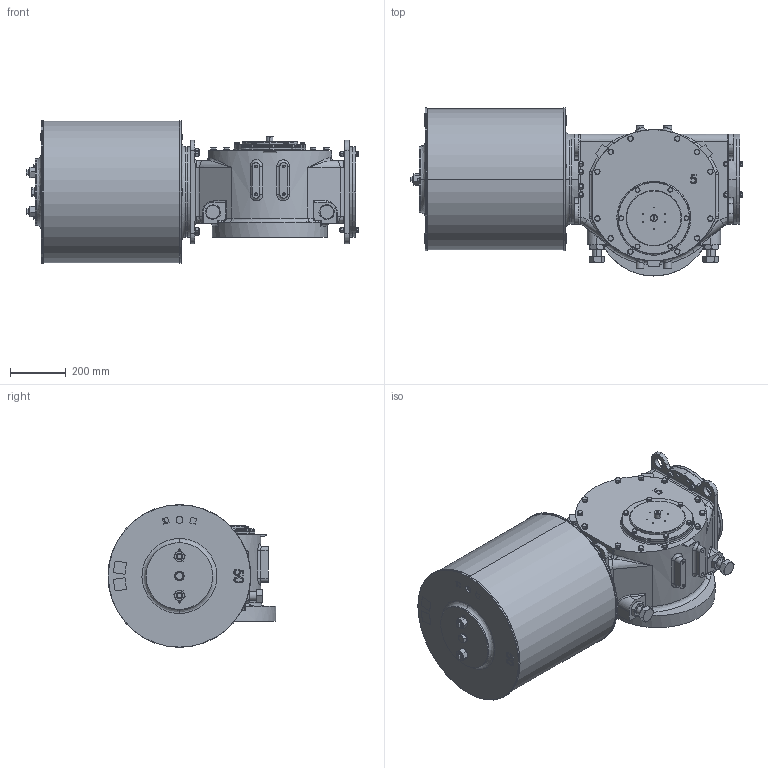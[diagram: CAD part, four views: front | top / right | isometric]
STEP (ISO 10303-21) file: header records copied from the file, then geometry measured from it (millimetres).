
FILE_DESCRIPTION (( 'STEP AP203' ), '1' );
FILE_NAME ('VTS5-500.STEP', '2023-01-01T09:50:51', ( '' ), ( '' ), 'SwSTEP 2.0', 'SolidWorks 2020', '' );
FILE_SCHEMA (( 'CONFIG_CONTROL_DESIGN' ));
Length unit declared in the file: millimetre
Products named in the file (1): VTS5-500
Bounding box: 1194.68 x 604.5 x 514 mm (x, y, z)
Volume: 169288472.1 mm3; surface area: 3043616 mm2
Topology: 3 solids, 5 shells, 1987 faces, 5081 edges, 3194 vertices
Faces by surface type: plane 826, cylinder 611, cone 457, bspline 93
Entity records: 73388 total; most frequent: CARTESIAN_POINT 26279, ORIENTED_EDGE 10018, DIRECTION 9694, EDGE_CURVE 5009, AXIS2_PLACEMENT_3D 3834, VERTEX_POINT 3194, EDGE_LOOP 2241, LINE 2026
